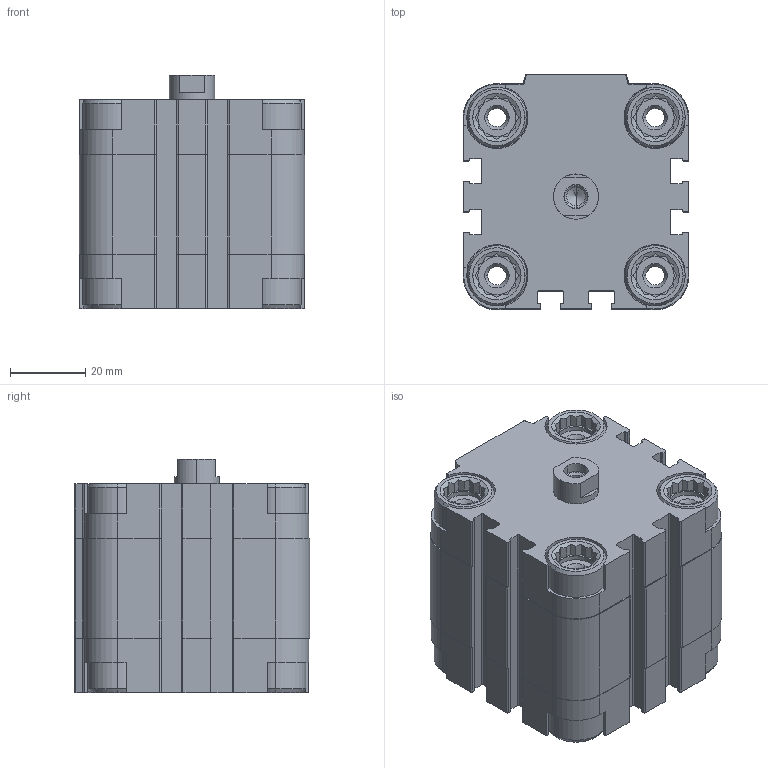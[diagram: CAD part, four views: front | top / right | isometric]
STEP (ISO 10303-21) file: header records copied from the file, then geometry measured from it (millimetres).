
FILE_DESCRIPTION (( 'STEP AP203' ), '1' );
FILE_NAME ('CDVU40-10F.STEP', '2020-03-30T14:58:31', ( '' ), ( '' ), 'SwSTEP 2.0', 'SolidWorks 2019', '' );
FILE_SCHEMA (( 'CONFIG_CONTROL_DESIGN' ));
Length unit declared in the file: millimetre
Products named in the file (1): CDVU40-10F
Bounding box: 60 x 62.5 x 62 mm (x, y, z)
Volume: 164383.2 mm3; surface area: 42997.4 mm2
Topology: 2 solids, 2 shells, 709 faces, 1894 edges, 1223 vertices
Faces by surface type: plane 417, cylinder 230, cone 62
Entity records: 22229 total; most frequent: CARTESIAN_POINT 4397, ORIENTED_EDGE 3776, DIRECTION 3636, EDGE_CURVE 1888, AXIS2_PLACEMENT_3D 1230, VERTEX_POINT 1223, LINE 1176, VECTOR 1176
